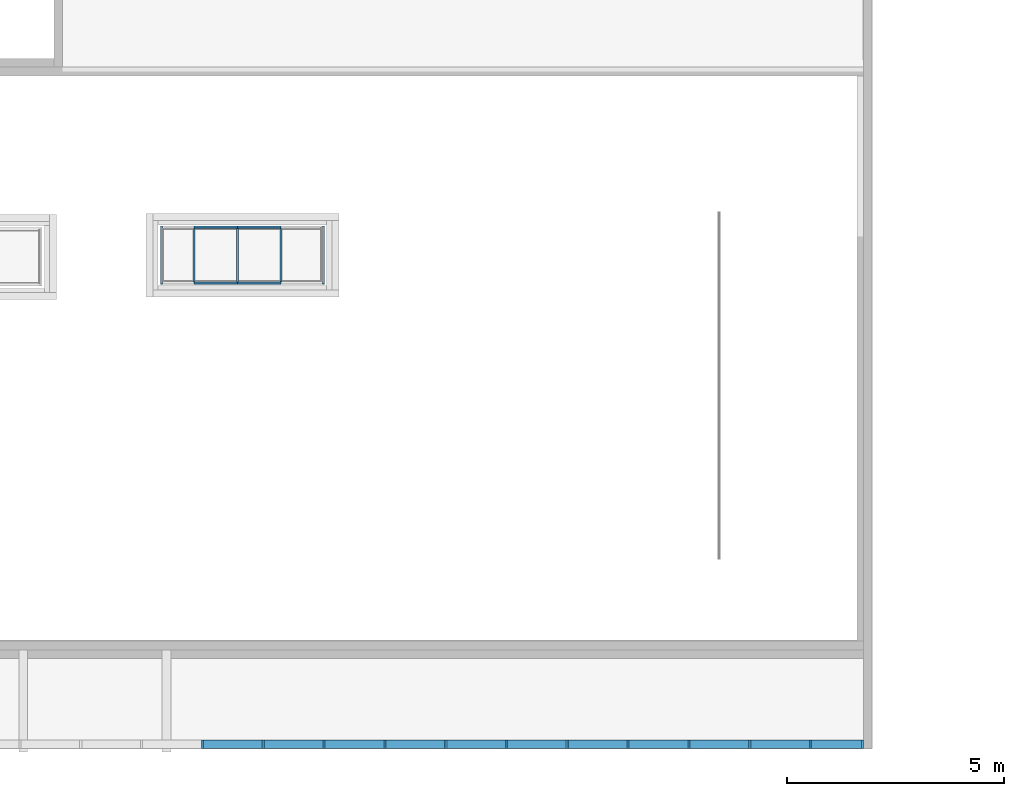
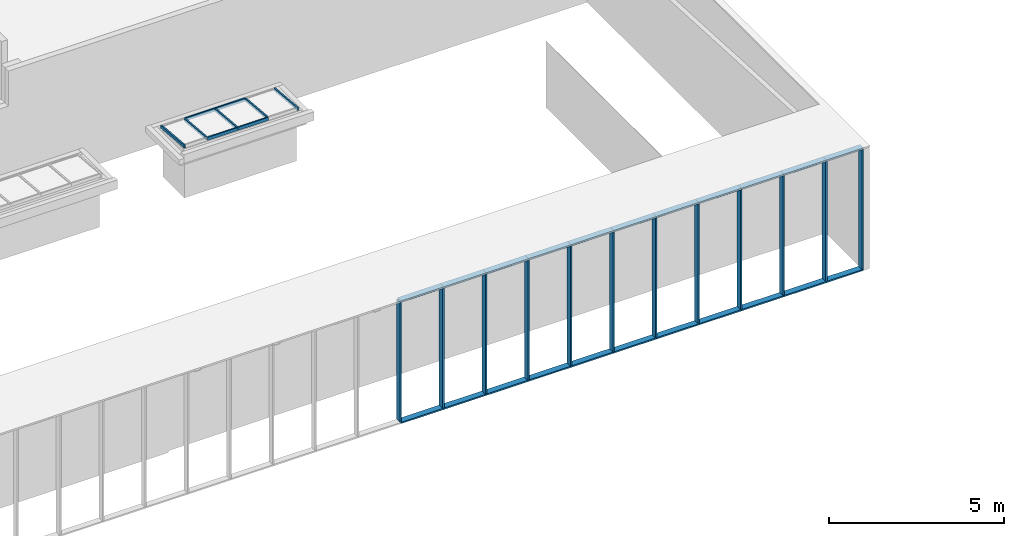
# One storey, part 3 of 106: 43 members, 2 elements without a shape of their own.
"""IFC2X3 building model written with IfcOpenShell, lengths in centimetres."""

from ifc_helpers import new_model, entity, si_unit, converted_unit, derived_unit, direction, frame, origin, origin_2d_with_axis, place, context, subcontext, project, spatial, rectangle, extrude, source, transform, mapped, material, type_object, type_shapes, element, aggregate, save


model = new_model("IFC2X3")

# Units and contexts
model_context = context("Model", 3, precision=0.001, world=origin(), true_north=direction((6.12303176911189e-17, 1.0)))
body_context = subcontext(model_context, "Body", "Model", "MODEL_VIEW")
ifc_project = project(units=[si_unit("LENGTHUNIT", "METRE", prefix="CENTI"), si_unit("AREAUNIT", "SQUARE_METRE"), si_unit("VOLUMEUNIT", "CUBIC_METRE"), converted_unit("PLANEANGLEUNIT", "DEGREE", entity("IfcRatioMeasure", 0.0174532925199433), si_unit("PLANEANGLEUNIT", "RADIAN"), dimensions=[0, 0, 0, 0, 0, 0, 0]), si_unit("MASSUNIT", "GRAM", prefix="KILO"), derived_unit("MASSDENSITYUNIT", [(si_unit("MASSUNIT", "GRAM", prefix="KILO"), 1), (si_unit("LENGTHUNIT", "METRE"), -3)]), si_unit("TIMEUNIT", "SECOND"), si_unit("FREQUENCYUNIT", "HERTZ"), si_unit("THERMODYNAMICTEMPERATUREUNIT", "DEGREE_CELSIUS"), derived_unit("THERMALTRANSMITTANCEUNIT", [(si_unit("MASSUNIT", "GRAM", prefix="KILO"), 1), (si_unit("THERMODYNAMICTEMPERATUREUNIT", "KELVIN"), -1), (si_unit("TIMEUNIT", "SECOND"), -3)]), derived_unit("VOLUMETRICFLOWRATEUNIT", [(si_unit("LENGTHUNIT", "METRE"), 3), (si_unit("TIMEUNIT", "SECOND"), -1)]), si_unit("ELECTRICCURRENTUNIT", "AMPERE"), si_unit("ELECTRICVOLTAGEUNIT", "VOLT"), si_unit("POWERUNIT", "WATT"), si_unit("FORCEUNIT", "NEWTON", prefix="KILO"), si_unit("ILLUMINANCEUNIT", "LUX"), si_unit("LUMINOUSFLUXUNIT", "LUMEN"), si_unit("LUMINOUSINTENSITYUNIT", "CANDELA"), derived_unit("USERDEFINED", [(si_unit("MASSUNIT", "GRAM", prefix="KILO"), -1), (si_unit("LENGTHUNIT", "METRE"), -2), (si_unit("TIMEUNIT", "SECOND"), 3), (si_unit("LUMINOUSFLUXUNIT", "LUMEN"), 1)]), derived_unit("LINEARVELOCITYUNIT", [(si_unit("LENGTHUNIT", "METRE"), 1), (si_unit("TIMEUNIT", "SECOND"), -1)]), si_unit("PRESSUREUNIT", "PASCAL"), derived_unit("USERDEFINED", [(si_unit("LENGTHUNIT", "METRE"), -2), (si_unit("MASSUNIT", "GRAM", prefix="KILO"), 1), (si_unit("TIMEUNIT", "SECOND"), -2)])], contexts=[model_context])

# Site, building, storey
site_placement = place(None, frame((-2781.94577612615, 7442.24238424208, 0.0)))
site = spatial("IfcSite", under=ifc_project, at=site_placement, Name="Default", CompositionType="ELEMENT")
building_placement = place(site_placement, origin())
building = spatial("IfcBuilding", under=site, at=building_placement, CompositionType="ELEMENT")
storey_placement = place(building_placement, frame((0.0, 0.0, 422.0)))
storey = spatial("IfcBuildingStorey", under=building, at=storey_placement, Name="Toiture - Cuisine", CompositionType="ELEMENT", Elevation=421.999999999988)

# Roof, members
curtain_wall_type_1 = type_object("IfcCurtainWallType", Name="Vitres inclinées:Toit en verre 1 m x 2 m", PredefinedType="NOTDEFINED")
roof_placement = place(building_placement, origin())
roof = element("IfcRoof", 1, at=roof_placement, inside=storey, type_object=curtain_wall_type_1, Name="Vitres inclinées:Toit en verre 1 m x 2 m", ObjectType="Vitres inclinées:Toit en verre 1 m x 2 m", ShapeType="NOTDEFINED")
ifc_material_1 = material(Name="Plastique, blanc opaque")
member_type_1 = type_object("IfcMemberType", Name="100 x 50mm", PredefinedType="MEMBER")
shared_shape_1 = source(origin(), body_context, "Body", "SweptSolid", [
    extrude(rectangle(XDim=10.0, YDim=5.0, at=origin_2d_with_axis()), frame((-2.5, 0.0, -100.0), z_axis=(0.0, 0.0, 1.0), x_axis=(0.0, -1.0, 0.0)), (0.0, 0.0, 1.0), 99.9999999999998),
])
type_shapes(member_type_1, [shared_shape_1])
member_1_placement = place(building_placement, frame((-9909.35057465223, -4705.2161509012, 662.161362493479), z_axis=(1.0, 0.0, 0.0), x_axis=(0.0, -0.996194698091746, 0.0871557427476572)))
member_1 = element("IfcMember", 2, at=member_1_placement, type_object=member_type_1, material=ifc_material_1, Name="Meneau rectangulaire:100 x 50mm", ObjectType="Meneau rectangulaire:100 x 50mm", context=body_context, shape_type="MappedRepresentation", body=[
    mapped(shared_shape_1, transform((0.0, 0.0, 0.0), scale=1.0)),
])
member_2_placement = place(building_placement, frame((-10009.3505746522, -4705.2161509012, 662.161362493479), z_axis=(1.0, 0.0, 0.0), x_axis=(0.0, -0.996194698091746, 0.0871557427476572)))
member_2 = element("IfcMember", 3, at=member_2_placement, type_object=member_type_1, material=ifc_material_1, Name="Meneau rectangulaire:100 x 50mm", ObjectType="Meneau rectangulaire:100 x 50mm", context=body_context, shape_type="MappedRepresentation", body=[
    mapped(shared_shape_1, transform((0.0, 0.0, 0.0), scale=1.0)),
])
member_type_2 = type_object("IfcMemberType", Name="100 x 50mm", PredefinedType="MEMBER")
shared_shape_2 = source(origin(), body_context, "Body", "SweptSolid", [
    extrude(rectangle(XDim=10.0, YDim=5.0, at=origin_2d_with_axis()), frame((-2.5, 0.0, -100.0), z_axis=(0.0, 0.0, 1.0), x_axis=(0.0, -1.0, 0.0)), (0.0, 0.0, 1.0), 99.9999999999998),
])
type_shapes(member_type_2, [shared_shape_2])
member_3_placement = place(building_placement, frame((-10009.3505746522, -4571.23097835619, 650.439178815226), z_axis=(-1.0, 0.0, 0.0), x_axis=(0.0, 0.996194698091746, -0.0871557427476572)))
member_3 = element("IfcMember", 4, at=member_3_placement, type_object=member_type_2, material=ifc_material_1, Name="Meneau rectangulaire:100 x 50mm", ObjectType="Meneau rectangulaire:100 x 50mm", context=body_context, shape_type="MappedRepresentation", body=[
    mapped(shared_shape_2, transform((0.0, 0.0, 0.0), scale=1.0)),
])
member_4_placement = place(building_placement, frame((-10109.3505746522, -4571.23097835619, 650.439178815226), z_axis=(-1.0, 0.0, 0.0), x_axis=(0.0, 0.996194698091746, -0.0871557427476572)))
member_4 = element("IfcMember", 5, at=member_4_placement, type_object=member_type_2, material=ifc_material_1, Name="Meneau rectangulaire:100 x 50mm", ObjectType="Meneau rectangulaire:100 x 50mm", context=body_context, shape_type="MappedRepresentation", body=[
    mapped(shared_shape_2, transform((0.0, 0.0, 0.0), scale=1.0)),
])

# Curtain wall, members
curtain_wall_type_2 = type_object("IfcCurtainWallType", Name="Mur-rideau:Epines - 200x50mm", PredefinedType="NOTDEFINED")
curtain_wall_placement = place(building_placement, origin())
curtain_wall = element("IfcCurtainWall", 6, at=curtain_wall_placement, inside=storey, type_object=curtain_wall_type_2, Name="Mur-rideau:Epines - 200x50mm", ObjectType="Mur-rideau:Epines - 200x50mm")
ifc_material_2 = material(Name="Aluminium")
member_type_3 = type_object("IfcMemberType", Name="200x50 mm", PredefinedType="MEMBER")
shared_shape_3 = source(origin(), body_context, "Body", "SweptSolid", [
    extrude(rectangle(XDim=20.0, YDim=5.0, at=origin_2d_with_axis()), frame((-2.5, 0.0, -140.0), z_axis=(0.0, 0.0, 1.0), x_axis=(0.0, -1.0, 0.0)), (0.0, 0.0, 1.0), 140.000000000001),
])
type_shapes(member_type_3, [shared_shape_3])
member_5_placement = place(building_placement, frame((-8830.48738089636, -5764.00173441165, 740.0), z_axis=(-1.0, 0.0, 0.0), x_axis=(0.0, 0.0, 1.0)))
member_5 = element("IfcMember", 7, at=member_5_placement, type_object=member_type_3, material=ifc_material_2, Name="Meneau rectangulaire:200x50 mm", ObjectType="Meneau rectangulaire:200x50 mm", context=body_context, shape_type="MappedRepresentation", body=[
    mapped(shared_shape_3, transform((0.0, 0.0, 0.0), scale=1.0)),
])
member_6_placement = place(building_placement, frame((-8970.48738089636, -5764.00173441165, 740.0), z_axis=(-1.0, 0.0, 0.0), x_axis=(0.0, 0.0, 1.0)))
member_6 = element("IfcMember", 8, at=member_6_placement, type_object=member_type_3, material=ifc_material_2, Name="Meneau rectangulaire:200x50 mm", ObjectType="Meneau rectangulaire:200x50 mm", context=body_context, shape_type="MappedRepresentation", body=[
    mapped(shared_shape_3, transform((0.0, 0.0, 0.0), scale=1.0)),
])
member_7_placement = place(building_placement, frame((-9110.48738089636, -5764.00173441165, 740.0), z_axis=(-1.0, 0.0, 0.0), x_axis=(0.0, 0.0, 1.0)))
member_7 = element("IfcMember", 9, at=member_7_placement, type_object=member_type_3, material=ifc_material_2, Name="Meneau rectangulaire:200x50 mm", ObjectType="Meneau rectangulaire:200x50 mm", context=body_context, shape_type="MappedRepresentation", body=[
    mapped(shared_shape_3, transform((0.0, 0.0, 0.0), scale=1.0)),
])
member_8_placement = place(building_placement, frame((-9250.48738089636, -5764.00173441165, 740.0), z_axis=(-1.0, 0.0, 0.0), x_axis=(0.0, 0.0, 1.0)))
member_8 = element("IfcMember", 10, at=member_8_placement, type_object=member_type_3, material=ifc_material_2, Name="Meneau rectangulaire:200x50 mm", ObjectType="Meneau rectangulaire:200x50 mm", context=body_context, shape_type="MappedRepresentation", body=[
    mapped(shared_shape_3, transform((0.0, 0.0, 0.0), scale=1.0)),
])
member_9_placement = place(building_placement, frame((-9390.48738089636, -5764.00173441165, 740.0), z_axis=(-1.0, 0.0, 0.0), x_axis=(0.0, 0.0, 1.0)))
member_9 = element("IfcMember", 11, at=member_9_placement, type_object=member_type_3, material=ifc_material_2, Name="Meneau rectangulaire:200x50 mm", ObjectType="Meneau rectangulaire:200x50 mm", context=body_context, shape_type="MappedRepresentation", body=[
    mapped(shared_shape_3, transform((0.0, 0.0, 0.0), scale=1.0)),
])
member_10_placement = place(building_placement, frame((-9530.48738089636, -5764.00173441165, 740.0), z_axis=(-1.0, 0.0, 0.0), x_axis=(0.0, 0.0, 1.0)))
member_10 = element("IfcMember", 12, at=member_10_placement, type_object=member_type_3, material=ifc_material_2, Name="Meneau rectangulaire:200x50 mm", ObjectType="Meneau rectangulaire:200x50 mm", context=body_context, shape_type="MappedRepresentation", body=[
    mapped(shared_shape_3, transform((0.0, 0.0, 0.0), scale=1.0)),
])
member_11_placement = place(building_placement, frame((-9670.48738089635, -5764.00173441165, 740.0), z_axis=(-1.0, 0.0, 0.0), x_axis=(0.0, 0.0, 1.0)))
member_11 = element("IfcMember", 13, at=member_11_placement, type_object=member_type_3, material=ifc_material_2, Name="Meneau rectangulaire:200x50 mm", ObjectType="Meneau rectangulaire:200x50 mm", context=body_context, shape_type="MappedRepresentation", body=[
    mapped(shared_shape_3, transform((0.0, 0.0, 0.0), scale=1.0)),
])
member_12_placement = place(building_placement, frame((-9810.48738089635, -5764.00173441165, 740.0), z_axis=(-1.0, 0.0, 0.0), x_axis=(0.0, 0.0, 1.0)))
member_12 = element("IfcMember", 14, at=member_12_placement, type_object=member_type_3, material=ifc_material_2, Name="Meneau rectangulaire:200x50 mm", ObjectType="Meneau rectangulaire:200x50 mm", context=body_context, shape_type="MappedRepresentation", body=[
    mapped(shared_shape_3, transform((0.0, 0.0, 0.0), scale=1.0)),
])
member_13_placement = place(building_placement, frame((-9950.48738089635, -5764.00173441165, 740.0), z_axis=(-1.0, 0.0, 0.0), x_axis=(0.0, 0.0, 1.0)))
member_13 = element("IfcMember", 15, at=member_13_placement, type_object=member_type_3, material=ifc_material_2, Name="Meneau rectangulaire:200x50 mm", ObjectType="Meneau rectangulaire:200x50 mm", context=body_context, shape_type="MappedRepresentation", body=[
    mapped(shared_shape_3, transform((0.0, 0.0, 0.0), scale=1.0)),
])
member_14_placement = place(building_placement, frame((-10090.4873808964, -5764.00173441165, 740.0), z_axis=(-1.0, 0.0, 0.0), x_axis=(0.0, 0.0, 1.0)))
member_14 = element("IfcMember", 16, at=member_14_placement, type_object=member_type_3, material=ifc_material_2, Name="Meneau rectangulaire:200x50 mm", ObjectType="Meneau rectangulaire:200x50 mm", context=body_context, shape_type="MappedRepresentation", body=[
    mapped(shared_shape_3, transform((0.0, 0.0, 0.0), scale=1.0)),
])
member_type_4 = type_object("IfcMemberType", Name="200x50 mm", PredefinedType="MEMBER")
shared_shape_4 = source(origin(), body_context, "Body", "SweptSolid", [
    extrude(rectangle(XDim=20.0, YDim=5.0, at=origin_2d_with_axis()), frame((-2.5, 0.0, -121.500000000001), z_axis=(0.0, 0.0, 1.0), x_axis=(0.0, -1.0, 0.0)), (0.0, 0.0, 1.0), 121.5),
])
type_shapes(member_type_4, [shared_shape_4])
member_15_placement = place(building_placement, frame((-8568.98738089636, -5764.00173441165, 313.0), z_axis=(1.0, 0.0, 0.0), x_axis=(0.0, 0.0, -1.0)))
member_15 = element("IfcMember", 17, at=member_15_placement, type_object=member_type_4, material=ifc_material_2, Name="Meneau rectangulaire:200x50 mm", ObjectType="Meneau rectangulaire:200x50 mm", context=body_context, shape_type="MappedRepresentation", body=[
    mapped(shared_shape_4, transform((0.0, 0.0, 0.0), scale=1.0)),
])
member_type_5 = type_object("IfcMemberType", Name="200x50 mm", PredefinedType="MEMBER")
shared_shape_5 = source(origin(), body_context, "Body", "SweptSolid", [
    extrude(rectangle(XDim=20.0, YDim=5.0, at=origin_2d_with_axis()), frame((-2.5, 0.0, -121.5), z_axis=(0.0, 0.0, 1.0), x_axis=(0.0, -1.0, 0.0)), (0.0, 0.0, 1.0), 121.5),
])
type_shapes(member_type_5, [shared_shape_5])
member_16_placement = place(building_placement, frame((-8690.48738089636, -5764.00173441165, 740.0), z_axis=(-1.0, 0.0, 0.0), x_axis=(0.0, 0.0, 1.0)))
member_16 = element("IfcMember", 18, at=member_16_placement, type_object=member_type_5, material=ifc_material_2, Name="Meneau rectangulaire:200x50 mm", ObjectType="Meneau rectangulaire:200x50 mm", context=body_context, shape_type="MappedRepresentation", body=[
    mapped(shared_shape_5, transform((0.0, 0.0, 0.0), scale=1.0)),
])
member_type_6 = type_object("IfcMemberType", Name="200x50 mm", PredefinedType="MEMBER")
shared_shape_6 = source(origin(), body_context, "Body", "SweptSolid", [
    extrude(rectangle(XDim=20.0, YDim=5.0, at=origin_2d_with_axis()), frame((-2.5, 0.0, -140.0), z_axis=(0.0, 0.0, 1.0), x_axis=(0.0, -1.0, 0.0)), (0.0, 0.0, 1.0), 139.999999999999),
])
type_shapes(member_type_6, [shared_shape_6])
member_17_placement = place(building_placement, frame((-8690.48738089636, -5764.00173441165, 313.0), z_axis=(1.0, 0.0, 0.0), x_axis=(0.0, 0.0, -1.0)))
member_17 = element("IfcMember", 19, at=member_17_placement, type_object=member_type_6, material=ifc_material_2, Name="Meneau rectangulaire:200x50 mm", ObjectType="Meneau rectangulaire:200x50 mm", context=body_context, shape_type="MappedRepresentation", body=[
    mapped(shared_shape_6, transform((0.0, 0.0, 0.0), scale=1.0)),
])
member_18_placement = place(building_placement, frame((-8830.48738089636, -5764.00173441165, 313.0), z_axis=(1.0, 0.0, 0.0), x_axis=(0.0, 0.0, -1.0)))
member_18 = element("IfcMember", 20, at=member_18_placement, type_object=member_type_6, material=ifc_material_2, Name="Meneau rectangulaire:200x50 mm", ObjectType="Meneau rectangulaire:200x50 mm", context=body_context, shape_type="MappedRepresentation", body=[
    mapped(shared_shape_6, transform((0.0, 0.0, 0.0), scale=1.0)),
])
member_19_placement = place(building_placement, frame((-8970.48738089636, -5764.00173441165, 313.0), z_axis=(1.0, 0.0, 0.0), x_axis=(0.0, 0.0, -1.0)))
member_19 = element("IfcMember", 21, at=member_19_placement, type_object=member_type_6, material=ifc_material_2, Name="Meneau rectangulaire:200x50 mm", ObjectType="Meneau rectangulaire:200x50 mm", context=body_context, shape_type="MappedRepresentation", body=[
    mapped(shared_shape_6, transform((0.0, 0.0, 0.0), scale=1.0)),
])
member_20_placement = place(building_placement, frame((-9110.48738089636, -5764.00173441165, 313.0), z_axis=(1.0, 0.0, 0.0), x_axis=(0.0, 0.0, -1.0)))
member_20 = element("IfcMember", 22, at=member_20_placement, type_object=member_type_6, material=ifc_material_2, Name="Meneau rectangulaire:200x50 mm", ObjectType="Meneau rectangulaire:200x50 mm", context=body_context, shape_type="MappedRepresentation", body=[
    mapped(shared_shape_6, transform((0.0, 0.0, 0.0), scale=1.0)),
])
member_21_placement = place(building_placement, frame((-9250.48738089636, -5764.00173441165, 313.0), z_axis=(1.0, 0.0, 0.0), x_axis=(0.0, 0.0, -1.0)))
member_21 = element("IfcMember", 23, at=member_21_placement, type_object=member_type_6, material=ifc_material_2, Name="Meneau rectangulaire:200x50 mm", ObjectType="Meneau rectangulaire:200x50 mm", context=body_context, shape_type="MappedRepresentation", body=[
    mapped(shared_shape_6, transform((0.0, 0.0, 0.0), scale=1.0)),
])
member_22_placement = place(building_placement, frame((-9390.48738089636, -5764.00173441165, 313.0), z_axis=(1.0, 0.0, 0.0), x_axis=(0.0, 0.0, -1.0)))
member_22 = element("IfcMember", 24, at=member_22_placement, type_object=member_type_6, material=ifc_material_2, Name="Meneau rectangulaire:200x50 mm", ObjectType="Meneau rectangulaire:200x50 mm", context=body_context, shape_type="MappedRepresentation", body=[
    mapped(shared_shape_6, transform((0.0, 0.0, 0.0), scale=1.0)),
])
member_23_placement = place(building_placement, frame((-9530.48738089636, -5764.00173441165, 313.0), z_axis=(1.0, 0.0, 0.0), x_axis=(0.0, 0.0, -1.0)))
member_23 = element("IfcMember", 25, at=member_23_placement, type_object=member_type_6, material=ifc_material_2, Name="Meneau rectangulaire:200x50 mm", ObjectType="Meneau rectangulaire:200x50 mm", context=body_context, shape_type="MappedRepresentation", body=[
    mapped(shared_shape_6, transform((0.0, 0.0, 0.0), scale=1.0)),
])
member_24_placement = place(building_placement, frame((-9670.48738089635, -5764.00173441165, 313.0), z_axis=(1.0, 0.0, 0.0), x_axis=(0.0, 0.0, -1.0)))
member_24 = element("IfcMember", 26, at=member_24_placement, type_object=member_type_6, material=ifc_material_2, Name="Meneau rectangulaire:200x50 mm", ObjectType="Meneau rectangulaire:200x50 mm", context=body_context, shape_type="MappedRepresentation", body=[
    mapped(shared_shape_6, transform((0.0, 0.0, 0.0), scale=1.0)),
])
member_25_placement = place(building_placement, frame((-9810.48738089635, -5764.00173441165, 313.0), z_axis=(1.0, 0.0, 0.0), x_axis=(0.0, 0.0, -1.0)))
member_25 = element("IfcMember", 27, at=member_25_placement, type_object=member_type_6, material=ifc_material_2, Name="Meneau rectangulaire:200x50 mm", ObjectType="Meneau rectangulaire:200x50 mm", context=body_context, shape_type="MappedRepresentation", body=[
    mapped(shared_shape_6, transform((0.0, 0.0, 0.0), scale=1.0)),
])
member_26_placement = place(building_placement, frame((-9950.48738089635, -5764.00173441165, 313.0), z_axis=(1.0, 0.0, 0.0), x_axis=(0.0, 0.0, -1.0)))
member_26 = element("IfcMember", 28, at=member_26_placement, type_object=member_type_6, material=ifc_material_2, Name="Meneau rectangulaire:200x50 mm", ObjectType="Meneau rectangulaire:200x50 mm", context=body_context, shape_type="MappedRepresentation", body=[
    mapped(shared_shape_6, transform((0.0, 0.0, 0.0), scale=1.0)),
])
member_type_7 = type_object("IfcMemberType", Name="200x50 mm", PredefinedType="MEMBER")
shared_shape_7 = source(origin(), body_context, "Body", "SweptSolid", [
    extrude(rectangle(XDim=20.0, YDim=5.0, at=origin_2d_with_axis()), frame((0.0, 0.0, -417.0), z_axis=(0.0, 0.0, 1.0), x_axis=(0.0, -1.0, 0.0)), (0.0, 0.0, 1.0), 416.999999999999),
])
type_shapes(member_type_7, [shared_shape_7])
member_27_placement = place(building_placement, frame((-10090.4873808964, -5764.00173441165, 318.0), z_axis=(0.0, 0.0, -1.0), x_axis=(-1.0, 0.0, 0.0)))
member_27 = element("IfcMember", 29, at=member_27_placement, type_object=member_type_7, material=ifc_material_2, Name="Meneau rectangulaire:200x50 mm", ObjectType="Meneau rectangulaire:200x50 mm", context=body_context, shape_type="MappedRepresentation", body=[
    mapped(shared_shape_7, transform((0.0, 0.0, 0.0), scale=1.0)),
])
member_28_placement = place(building_placement, frame((-9950.48738089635, -5764.00173441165, 318.0), z_axis=(0.0, 0.0, -1.0), x_axis=(-1.0, 0.0, 0.0)))
member_28 = element("IfcMember", 30, at=member_28_placement, type_object=member_type_7, material=ifc_material_2, Name="Meneau rectangulaire:200x50 mm", ObjectType="Meneau rectangulaire:200x50 mm", context=body_context, shape_type="MappedRepresentation", body=[
    mapped(shared_shape_7, transform((0.0, 0.0, 0.0), scale=1.0)),
])
member_29_placement = place(building_placement, frame((-9810.48738089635, -5764.00173441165, 318.0), z_axis=(0.0, 0.0, -1.0), x_axis=(-1.0, 0.0, 0.0)))
member_29 = element("IfcMember", 31, at=member_29_placement, type_object=member_type_7, material=ifc_material_2, Name="Meneau rectangulaire:200x50 mm", ObjectType="Meneau rectangulaire:200x50 mm", context=body_context, shape_type="MappedRepresentation", body=[
    mapped(shared_shape_7, transform((0.0, 0.0, 0.0), scale=1.0)),
])
member_30_placement = place(building_placement, frame((-9670.48738089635, -5764.00173441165, 318.0), z_axis=(0.0, 0.0, -1.0), x_axis=(-1.0, 0.0, 0.0)))
member_30 = element("IfcMember", 32, at=member_30_placement, type_object=member_type_7, material=ifc_material_2, Name="Meneau rectangulaire:200x50 mm", ObjectType="Meneau rectangulaire:200x50 mm", context=body_context, shape_type="MappedRepresentation", body=[
    mapped(shared_shape_7, transform((0.0, 0.0, 0.0), scale=1.0)),
])
member_31_placement = place(building_placement, frame((-9530.48738089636, -5764.00173441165, 318.0), z_axis=(0.0, 0.0, -1.0), x_axis=(-1.0, 0.0, 0.0)))
member_31 = element("IfcMember", 33, at=member_31_placement, type_object=member_type_7, material=ifc_material_2, Name="Meneau rectangulaire:200x50 mm", ObjectType="Meneau rectangulaire:200x50 mm", context=body_context, shape_type="MappedRepresentation", body=[
    mapped(shared_shape_7, transform((0.0, 0.0, 0.0), scale=1.0)),
])
member_32_placement = place(building_placement, frame((-9250.48738089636, -5764.00173441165, 318.0), z_axis=(0.0, 0.0, -1.0), x_axis=(-1.0, 0.0, 0.0)))
member_32 = element("IfcMember", 34, at=member_32_placement, type_object=member_type_7, material=ifc_material_2, Name="Meneau rectangulaire:200x50 mm", ObjectType="Meneau rectangulaire:200x50 mm", context=body_context, shape_type="MappedRepresentation", body=[
    mapped(shared_shape_7, transform((0.0, 0.0, 0.0), scale=1.0)),
])
member_33_placement = place(building_placement, frame((-9110.48738089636, -5764.00173441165, 318.0), z_axis=(0.0, 0.0, -1.0), x_axis=(-1.0, 0.0, 0.0)))
member_33 = element("IfcMember", 35, at=member_33_placement, type_object=member_type_7, material=ifc_material_2, Name="Meneau rectangulaire:200x50 mm", ObjectType="Meneau rectangulaire:200x50 mm", context=body_context, shape_type="MappedRepresentation", body=[
    mapped(shared_shape_7, transform((0.0, 0.0, 0.0), scale=1.0)),
])
member_34_placement = place(building_placement, frame((-8970.48738089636, -5764.00173441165, 318.0), z_axis=(0.0, 0.0, -1.0), x_axis=(-1.0, 0.0, 0.0)))
member_34 = element("IfcMember", 36, at=member_34_placement, type_object=member_type_7, material=ifc_material_2, Name="Meneau rectangulaire:200x50 mm", ObjectType="Meneau rectangulaire:200x50 mm", context=body_context, shape_type="MappedRepresentation", body=[
    mapped(shared_shape_7, transform((0.0, 0.0, 0.0), scale=1.0)),
])
member_35_placement = place(building_placement, frame((-8830.48738089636, -5764.00173441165, 318.0), z_axis=(0.0, 0.0, -1.0), x_axis=(-1.0, 0.0, 0.0)))
member_35 = element("IfcMember", 37, at=member_35_placement, type_object=member_type_7, material=ifc_material_2, Name="Meneau rectangulaire:200x50 mm", ObjectType="Meneau rectangulaire:200x50 mm", context=body_context, shape_type="MappedRepresentation", body=[
    mapped(shared_shape_7, transform((0.0, 0.0, 0.0), scale=1.0)),
])
member_36_placement = place(building_placement, frame((-8690.48738089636, -5764.00173441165, 318.0), z_axis=(0.0, 0.0, -1.0), x_axis=(-1.0, 0.0, 0.0)))
member_36 = element("IfcMember", 38, at=member_36_placement, type_object=member_type_7, material=ifc_material_2, Name="Meneau rectangulaire:200x50 mm", ObjectType="Meneau rectangulaire:200x50 mm", context=body_context, shape_type="MappedRepresentation", body=[
    mapped(shared_shape_7, transform((0.0, 0.0, 0.0), scale=1.0)),
])
member_37_placement = place(building_placement, frame((-9390.48738089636, -5764.00173441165, 318.0), z_axis=(0.0, 0.0, -1.0), x_axis=(-1.0, 0.0, 0.0)))
member_37 = element("IfcMember", 39, at=member_37_placement, type_object=member_type_7, material=ifc_material_2, Name="Meneau rectangulaire:200x50 mm", ObjectType="Meneau rectangulaire:200x50 mm", context=body_context, shape_type="MappedRepresentation", body=[
    mapped(shared_shape_7, transform((0.0, 0.0, 0.0), scale=1.0)),
])
member_type_8 = type_object("IfcMemberType", Name="200x50 mm", PredefinedType="MEMBER")
shared_shape_8 = source(origin(), body_context, "Body", "SweptSolid", [
    extrude(rectangle(XDim=20.0, YDim=5.0, at=origin_2d_with_axis()), frame((-2.5, 0.0, -417.0), z_axis=(0.0, 0.0, 1.0), x_axis=(0.0, -1.0, 0.0)), (0.0, 0.0, 1.0), 417.0),
])
type_shapes(member_type_8, [shared_shape_8])
member_38_placement = place(building_placement, frame((-8568.98738089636, -5764.00173441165, 735.0)))
member_38 = element("IfcMember", 40, at=member_38_placement, type_object=member_type_8, material=ifc_material_2, Name="Meneau rectangulaire:200x50 mm", ObjectType="Meneau rectangulaire:200x50 mm", context=body_context, shape_type="MappedRepresentation", body=[
    mapped(shared_shape_8, transform((0.0, 0.0, 0.0), scale=1.0)),
])
aggregate(curtain_wall, [member_15, member_16, member_17, member_5, member_18, member_6, member_19, member_7, member_20, member_8, member_21, member_9, member_22, member_10, member_23, member_11, member_24, member_12, member_25, member_13, member_26, member_14, member_27, member_28, member_29, member_30, member_31, member_32, member_33, member_34, member_35, member_36, member_38, member_37])

# Member
member_type_9 = type_object("IfcMemberType", Name="100 x 50mm", PredefinedType="MEMBER")
shared_shape_9 = source(origin(), body_context, "Body", "SweptSolid", [
    extrude(rectangle(XDim=10.0, YDim=5.0, at=origin_2d_with_axis()), frame((-2.5, 0.0, -134.496974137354), z_axis=(0.0, 0.0, 1.0), x_axis=(0.0, -1.0, 0.0)), (0.0, 0.0, 1.0), 134.496974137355),
])
type_shapes(member_type_9, [shared_shape_9])
member_39_placement = place(building_placement, frame((-9809.35057462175, -4571.23097835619, 650.439178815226), z_axis=(0.0, 0.996194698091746, -0.0871557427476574), x_axis=(1.0, 0.0, 0.0)))
member_39 = element("IfcMember", 41, at=member_39_placement, type_object=member_type_9, material=ifc_material_1, Name="Meneau rectangulaire:100 x 50mm", ObjectType="Meneau rectangulaire:100 x 50mm", context=body_context, shape_type="MappedRepresentation", body=[
    mapped(shared_shape_9, transform((0.0, 0.0, 0.0), scale=1.0)),
])

member_type_10 = type_object("IfcMemberType", Name="100 x 50mm", PredefinedType="MEMBER")
shared_shape_10 = source(origin(), body_context, "Body", "SweptSolid", [
    extrude(rectangle(XDim=10.0, YDim=5.0, at=origin_2d_with_axis()), frame((-2.5, 0.0, -134.496974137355), z_axis=(0.0, 0.0, 1.0), x_axis=(0.0, -1.0, 0.0)), (0.0, 0.0, 1.0), 134.496974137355),
])
type_shapes(member_type_10, [shared_shape_10])
member_40_placement = place(building_placement, frame((-10186.6505746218, -4705.2161509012, 662.161362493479), z_axis=(0.0, -0.996194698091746, 0.0871557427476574), x_axis=(-1.0, 0.0, 0.0)))
member_40 = element("IfcMember", 42, at=member_40_placement, type_object=member_type_10, material=ifc_material_1, Name="Meneau rectangulaire:100 x 50mm", ObjectType="Meneau rectangulaire:100 x 50mm", context=body_context, shape_type="MappedRepresentation", body=[
    mapped(shared_shape_10, transform((0.0, 0.0, 0.0), scale=1.0)),
])

member_type_11 = type_object("IfcMemberType", Name="100 x 50mm", PredefinedType="MEMBER")
shared_shape_11 = source(origin(), body_context, "Body", "SweptSolid", [
    extrude(rectangle(XDim=10.0, YDim=5.0, at=origin_2d_with_axis()), frame((0.0, 0.0, -124.496974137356), z_axis=(0.0, 0.0, 1.0), x_axis=(0.0, -1.0, 0.0)), (0.0, 0.0, 1.0), 124.496974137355),
])
type_shapes(member_type_11, [shared_shape_11])
member_41_placement = place(building_placement, frame((-9909.35057465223, -4700.23517741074, 661.725583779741), z_axis=(0.0, -0.996194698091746, 0.0871557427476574), x_axis=(-1.0, 0.0, 0.0)))
member_41 = element("IfcMember", 43, at=member_41_placement, type_object=member_type_11, material=ifc_material_1, Name="Meneau rectangulaire:100 x 50mm", ObjectType="Meneau rectangulaire:100 x 50mm", context=body_context, shape_type="MappedRepresentation", body=[
    mapped(shared_shape_11, transform((0.0, 0.0, 0.0), scale=1.0)),
])

member_42_placement = place(building_placement, frame((-10009.3505746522, -4700.23517741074, 661.725583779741), z_axis=(0.0, -0.996194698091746, 0.0871557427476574), x_axis=(-1.0, 0.0, 0.0)))
member_42 = element("IfcMember", 44, at=member_42_placement, type_object=member_type_11, material=ifc_material_1, Name="Meneau rectangulaire:100 x 50mm", ObjectType="Meneau rectangulaire:100 x 50mm", context=body_context, shape_type="MappedRepresentation", body=[
    mapped(shared_shape_11, transform((0.0, 0.0, 0.0), scale=1.0)),
])

member_43_placement = place(building_placement, frame((-10109.3505746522, -4700.23517741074, 661.725583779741), z_axis=(0.0, -0.996194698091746, 0.0871557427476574), x_axis=(-1.0, 0.0, 0.0)))
member_43 = element("IfcMember", 45, at=member_43_placement, type_object=member_type_11, material=ifc_material_1, Name="Meneau rectangulaire:100 x 50mm", ObjectType="Meneau rectangulaire:100 x 50mm", context=body_context, shape_type="MappedRepresentation", body=[
    mapped(shared_shape_11, transform((0.0, 0.0, 0.0), scale=1.0)),
])

aggregate(roof, [member_39, member_40, member_3, member_4, member_1, member_2, member_41, member_42, member_43])

save(model, "model.ifc")
